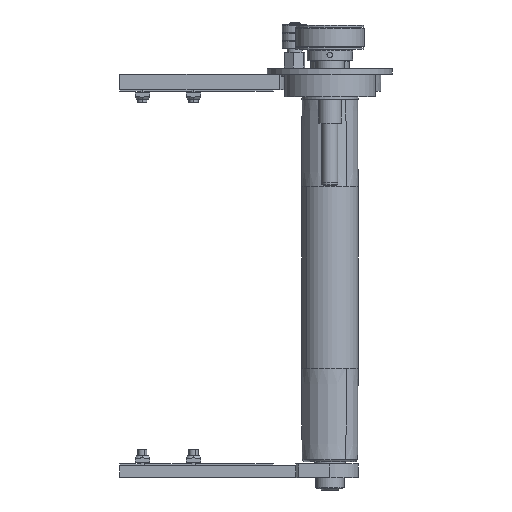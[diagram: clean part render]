
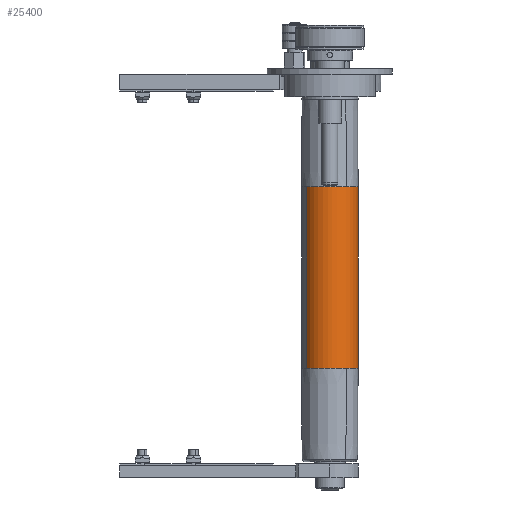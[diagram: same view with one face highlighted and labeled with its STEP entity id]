
A CAD part, front view. The second image highlights one B-rep face of the part: STEP entity #25400.
In plain terms, the highlighted cylindrical face has radius 25 mm (diameter 50 mm), a partial arc.
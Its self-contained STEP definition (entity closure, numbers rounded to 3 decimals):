
#1159 = CIRCLE ( 'NONE', #33019, 25. ) ;
#1205 = EDGE_CURVE ( 'NONE', #22693, #1687, #31632, .T. ) ;
#1687 = VERTEX_POINT ( 'NONE', #35233 ) ;
#1913 = AXIS2_PLACEMENT_3D ( 'NONE', #5987, #14840, #32323 ) ;
#2727 = CARTESIAN_POINT ( 'NONE',  ( -80., 0., 0. ) ) ;
#2869 = VECTOR ( 'NONE', #16653, 1000. ) ;
#2957 = EDGE_CURVE ( 'NONE', #4830, #15686, #1159, .T. ) ;
#4369 = ORIENTED_EDGE ( 'NONE', *, *, #1205, .T. ) ;
#4830 = VERTEX_POINT ( 'NONE', #16073 ) ;
#5526 = EDGE_CURVE ( 'NONE', #32876, #4830, #25935, .T. ) ;
#5987 = CARTESIAN_POINT ( 'NONE',  ( 160., 0., 0. ) ) ;
#8526 = VECTOR ( 'NONE', #31321, 1000. ) ;
#8657 = DIRECTION ( 'NONE',  ( 0., -1., 0. ) ) ;
#9840 = CIRCLE ( 'NONE', #26550, 25. ) ;
#11652 = ORIENTED_EDGE ( 'NONE', *, *, #15677, .T. ) ;
#13209 = DIRECTION ( 'NONE',  ( -1., 0., 0. ) ) ;
#14840 = DIRECTION ( 'NONE',  ( -1., 0., 0. ) ) ;
#14894 = EDGE_CURVE ( 'NONE', #1687, #15686, #19166, .T. ) ;
#15360 = CYLINDRICAL_SURFACE ( 'NONE', #1913, 25. ) ;
#15677 = EDGE_CURVE ( 'NONE', #32684, #22693, #9840, .T. ) ;
#15686 = VERTEX_POINT ( 'NONE', #19155 ) ;
#16073 = CARTESIAN_POINT ( 'NONE',  ( -80., -25., 0. ) ) ;
#16132 = ORIENTED_EDGE ( 'NONE', *, *, #31406, .F. ) ;
#16653 = DIRECTION ( 'NONE',  ( -1., 0., 0. ) ) ;
#17124 = LINE ( 'NONE', #25747, #8526 ) ;
#17203 = CARTESIAN_POINT ( 'NONE',  ( 80., 0., -25. ) ) ;
#18125 = DIRECTION ( 'NONE',  ( 0., -1., 0. ) ) ;
#19155 = CARTESIAN_POINT ( 'NONE',  ( -80., 0., 25. ) ) ;
#19166 = LINE ( 'NONE', #31256, #2869 ) ;
#20956 = CARTESIAN_POINT ( 'NONE',  ( 80., -25., 0. ) ) ;
#22693 = VERTEX_POINT ( 'NONE', #20956 ) ;
#23591 = CARTESIAN_POINT ( 'NONE',  ( 80., 0., 0. ) ) ;
#25400 = ADVANCED_FACE ( 'NONE', ( #31685 ), #15360, .T. ) ;
#25638 = DIRECTION ( 'NONE',  ( -1., 0., 0. ) ) ;
#25747 = CARTESIAN_POINT ( 'NONE',  ( 160., 0., -25. ) ) ;
#25935 = CIRCLE ( 'NONE', #30630, 25. ) ;
#26550 = AXIS2_PLACEMENT_3D ( 'NONE', #37171, #25638, #27028 ) ;
#27028 = DIRECTION ( 'NONE',  ( 0., -1., 0. ) ) ;
#27683 = CARTESIAN_POINT ( 'NONE',  ( -80., 0., 0. ) ) ;
#28842 = DIRECTION ( 'NONE',  ( -1., 0., 0. ) ) ;
#29275 = ORIENTED_EDGE ( 'NONE', *, *, #14894, .T. ) ;
#29942 = ORIENTED_EDGE ( 'NONE', *, *, #5526, .F. ) ;
#30630 = AXIS2_PLACEMENT_3D ( 'NONE', #27683, #13209, #33493 ) ;
#31256 = CARTESIAN_POINT ( 'NONE',  ( 160., 0., 25. ) ) ;
#31277 = ORIENTED_EDGE ( 'NONE', *, *, #2957, .F. ) ;
#31321 = DIRECTION ( 'NONE',  ( -1., 0., 0. ) ) ;
#31406 = EDGE_CURVE ( 'NONE', #32684, #32876, #17124, .T. ) ;
#31632 = CIRCLE ( 'NONE', #33674, 25. ) ;
#31685 = FACE_OUTER_BOUND ( 'NONE', #36588, .T. ) ;
#32323 = DIRECTION ( 'NONE',  ( 0., 0., 1. ) ) ;
#32684 = VERTEX_POINT ( 'NONE', #17203 ) ;
#32876 = VERTEX_POINT ( 'NONE', #36700 ) ;
#33019 = AXIS2_PLACEMENT_3D ( 'NONE', #2727, #28842, #8657 ) ;
#33493 = DIRECTION ( 'NONE',  ( 0., -1., 0. ) ) ;
#33674 = AXIS2_PLACEMENT_3D ( 'NONE', #23591, #35501, #18125 ) ;
#35233 = CARTESIAN_POINT ( 'NONE',  ( 80., 0., 25. ) ) ;
#35501 = DIRECTION ( 'NONE',  ( -1., 0., 0. ) ) ;
#36588 = EDGE_LOOP ( 'NONE', ( #16132, #11652, #4369, #29275, #31277, #29942 ) ) ;
#36700 = CARTESIAN_POINT ( 'NONE',  ( -80., 0., -25. ) ) ;
#37171 = CARTESIAN_POINT ( 'NONE',  ( 80., 0., 0. ) ) ;
